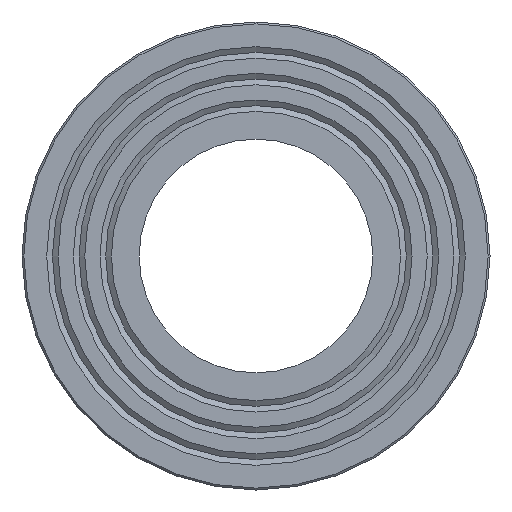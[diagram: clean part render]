
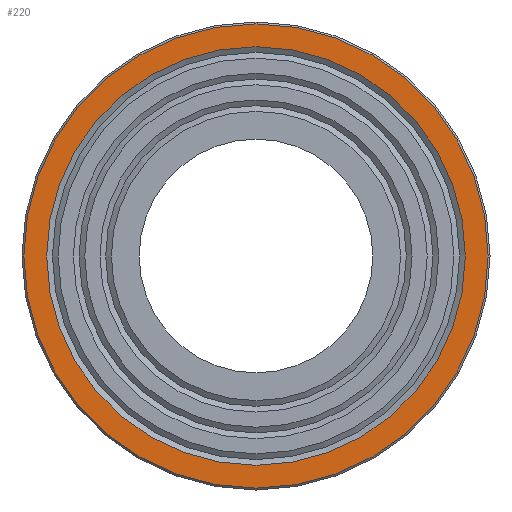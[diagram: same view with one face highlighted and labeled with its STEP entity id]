
A CAD part, left-side view. The second image highlights one B-rep face of the part: STEP entity #220.
In plain terms, the highlighted planar face has unit normal (-1, 0, 0).
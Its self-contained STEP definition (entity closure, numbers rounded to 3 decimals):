
#34=ORIENTED_EDGE('',*,*,#74,.F.);
#35=ORIENTED_EDGE('',*,*,#75,.T.);
#74=EDGE_CURVE('',#94,#94,#114,.T.);
#75=EDGE_CURVE('',#95,#95,#115,.F.);
#94=VERTEX_POINT('',#378);
#95=VERTEX_POINT('',#380);
#114=CIRCLE('',#254,55.);
#115=CIRCLE('',#255,61.);
#134=EDGE_LOOP('',(#34));
#135=EDGE_LOOP('',(#35));
#174=FACE_BOUND('',#134,.T.);
#175=FACE_BOUND('',#135,.T.);
#214=PLANE('',#253);
#220=ADVANCED_FACE('',(#174,#175),#214,.F.);
#253=AXIS2_PLACEMENT_3D('',#376,#295,#296);
#254=AXIS2_PLACEMENT_3D('',#377,#297,#298);
#255=AXIS2_PLACEMENT_3D('',#379,#299,#300);
#295=DIRECTION('',(1.,0.,0.));
#296=DIRECTION('',(0.,0.,-1.));
#297=DIRECTION('',(-1.,0.,0.));
#298=DIRECTION('',(0.,0.,1.));
#299=DIRECTION('',(1.,0.,0.));
#300=DIRECTION('',(0.,0.,-1.));
#376=CARTESIAN_POINT('',(0.,0.,61.5));
#377=CARTESIAN_POINT('',(0.,0.,0.));
#378=CARTESIAN_POINT('',(0.,0.,55.));
#379=CARTESIAN_POINT('',(0.,0.,0.));
#380=CARTESIAN_POINT('',(0.,0.,-61.));
